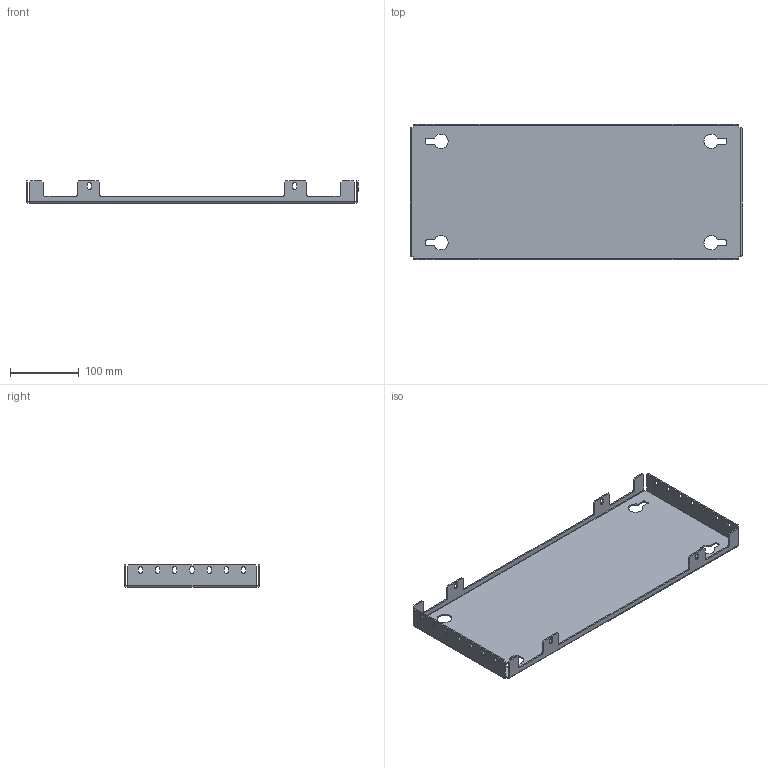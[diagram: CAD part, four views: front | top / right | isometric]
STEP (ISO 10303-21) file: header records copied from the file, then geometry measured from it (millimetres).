
FILE_DESCRIPTION (( 'STEP AP203' ), '1' );
FILE_NAME ('R5LPS0306.STEP', '2021-12-17T12:37:59', ( '' ), ( '' ), 'SwSTEP 2.0', 'SolidWorks 2020', '' );
FILE_SCHEMA (( 'CONFIG_CONTROL_DESIGN' ));
Length unit declared in the file: millimetre
Products named in the file (1): R5LPS0306
Bounding box: 484 x 198 x 32.5 mm (x, y, z)
Volume: 231619.2 mm3; surface area: 236973 mm2
Topology: 1 solids, 1 shells, 226 faces, 640 edges, 416 vertices
Faces by surface type: plane 130, cylinder 96
Entity records: 7485 total; most frequent: DIRECTION 1286, CARTESIAN_POINT 1283, ORIENTED_EDGE 1280, EDGE_CURVE 640, LINE 448, VECTOR 448, AXIS2_PLACEMENT_3D 419, VERTEX_POINT 416
